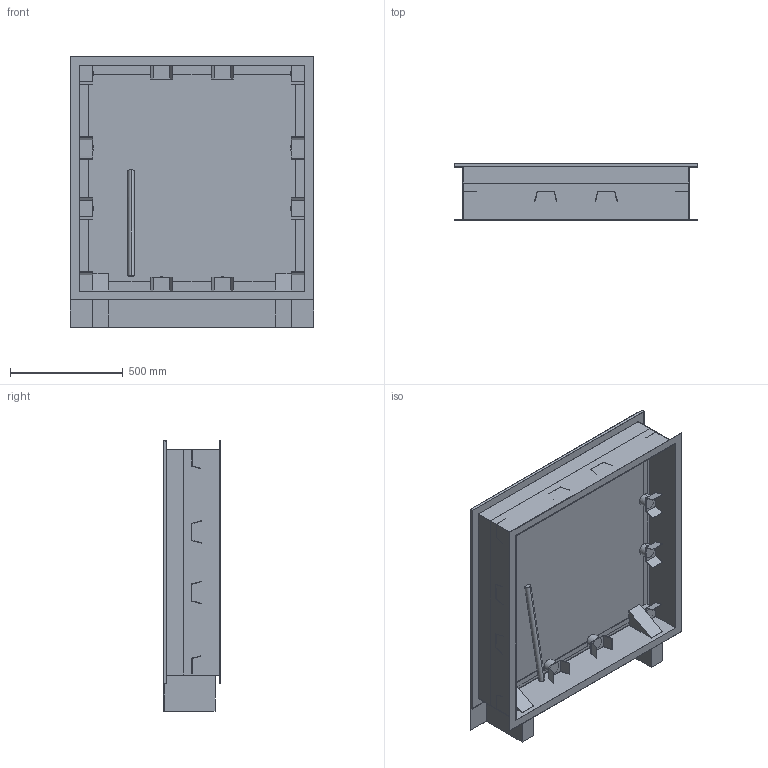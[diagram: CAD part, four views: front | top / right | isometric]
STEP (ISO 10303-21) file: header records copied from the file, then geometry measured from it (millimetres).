
FILE_DESCRIPTION((''),'2;1');
FILE_NAME('51822003','2025-04-22T08:00:11',('hrl'),('HUBER SE'),'CREO PARAMETRIC BY PTC INC, 2022162','CREO PARAMETRIC BY PTC INC, 2022162','');
FILE_SCHEMA(('AUTOMOTIVE_DESIGN { 1 0 10303 214 1 1 1 1 }'));
Length unit declared in the file: millimetre
Products named in the file (1): 51822003
Bounding box: 1078 x 250 x 1200 mm (x, y, z)
Volume: 92533977 mm3; surface area: 6075098.1 mm2
Topology: 1 solids, 1 shells, 323 faces, 877 edges, 562 vertices
Faces by surface type: plane 235, cylinder 88
Entity records: 11017 total; most frequent: CARTESIAN_POINT 1798, ORIENTED_EDGE 1754, DIRECTION 1751, EDGE_CURVE 877, VECTOR 645, LINE 645, VERTEX_POINT 562, AXIS2_PLACEMENT_3D 553
